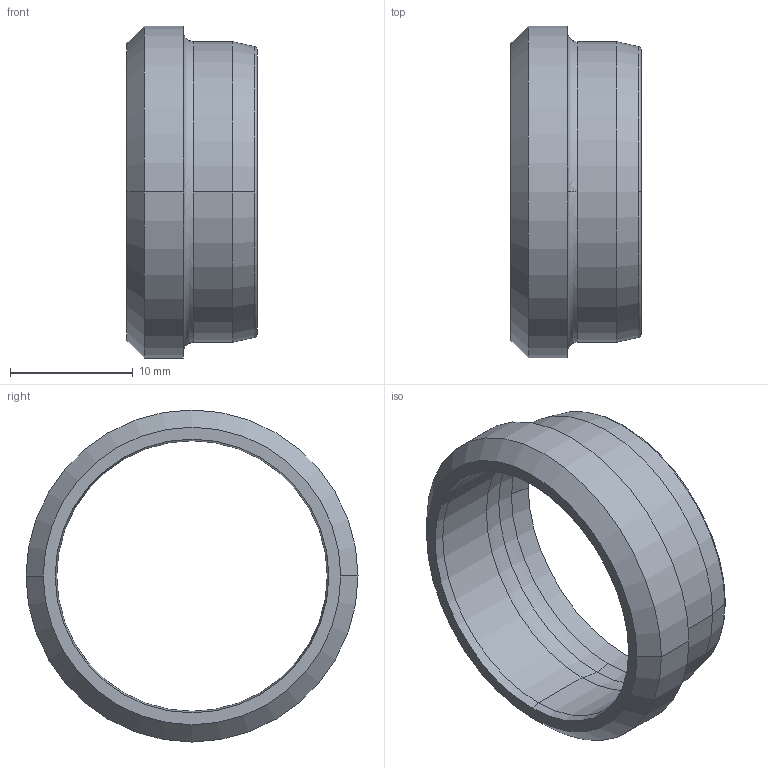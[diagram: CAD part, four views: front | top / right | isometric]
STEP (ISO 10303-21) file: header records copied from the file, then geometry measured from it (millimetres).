
FILE_DESCRIPTION((''),'2;1');
FILE_NAME('100110.stp','2006-03-06T15:07:15',('Dario Falcomer'),('CAST S.p.A.'),'AutoCAD STEP 2000i','AutoCAD 2000i',', , ');
FILE_SCHEMA(('CONFIG_CONTROL_DESIGN'));
Length unit declared in the file: millimetre
Products named in the file (2): 100110.0; 1001ESTERNO#0
Assembly tree (1 placements, depth 2):
  100110.0
    1001ESTERNO#0
Bounding box: 10.57 x 27 x 27 mm (x, y, z)
Volume: 1242.4 mm3; surface area: 1851.8 mm2
Topology: 1 solids, 1 shells, 30 faces, 71 edges, 45 vertices
Faces by surface type: cone 8, bspline 6, torus 6, cylinder 6, plane 4
Entity records: 1249 total; most frequent: CARTESIAN_POINT 412, DIRECTION 180, ORIENTED_EDGE 142, AXIS2_PLACEMENT_3D 83, EDGE_CURVE 71, CIRCLE 57, VERTEX_POINT 45, EDGE_LOOP 34
